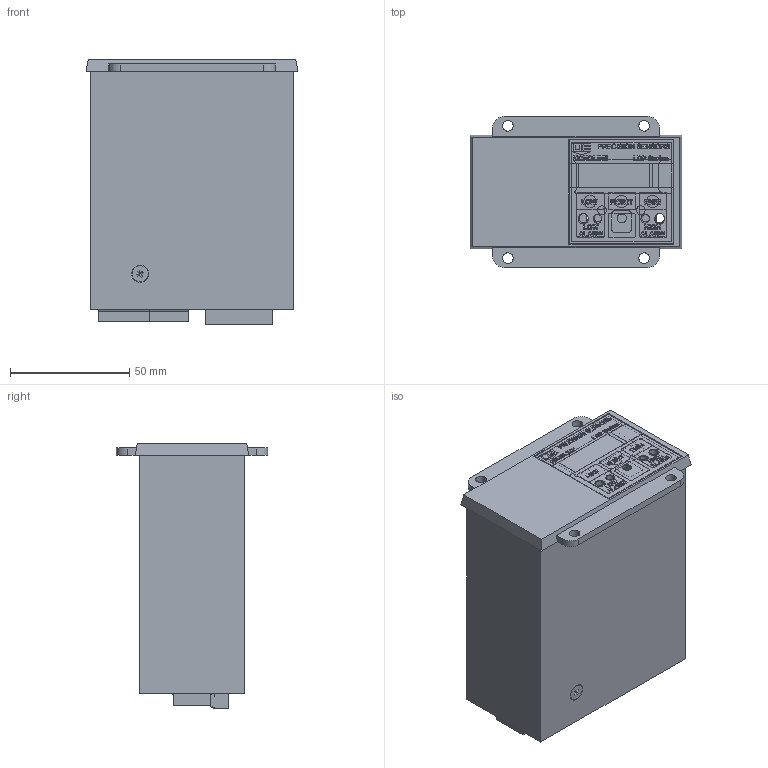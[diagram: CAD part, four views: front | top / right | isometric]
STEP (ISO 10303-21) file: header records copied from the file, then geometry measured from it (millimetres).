
FILE_DESCRIPTION (( 'STEP AP214' ), '1' );
FILE_NAME ('ECHOLINE CORROSIVE MEDIA.STEP', '2019-06-06T12:09:27', ( '' ), ( '' ), 'SwSTEP 2.0', 'SolidWorks 2012', '' );
FILE_SCHEMA (( 'AUTOMOTIVE_DESIGN' ));
Length unit declared in the file: inch
Products named in the file (1): ECHOLINE CORROSIVE MEDIA
Bounding box: 88.9 x 63.5 x 111.53 mm (x, y, z)
Volume: 135470.9 mm3; surface area: 92518.5 mm2
Topology: 16 solids, 16 shells, 2510 faces, 6736 edges, 4454 vertices
Faces by surface type: plane 1610, bspline 632, cylinder 186, cone 82
Entity records: 145229 total; most frequent: CARTESIAN_POINT 53507, ORIENTED_EDGE 13432, DIRECTION 9596, EDGE_CURVE 6716, LINE 4926, VECTOR 4926, VERTEX_POINT 4454, EDGE_LOOP 2826
